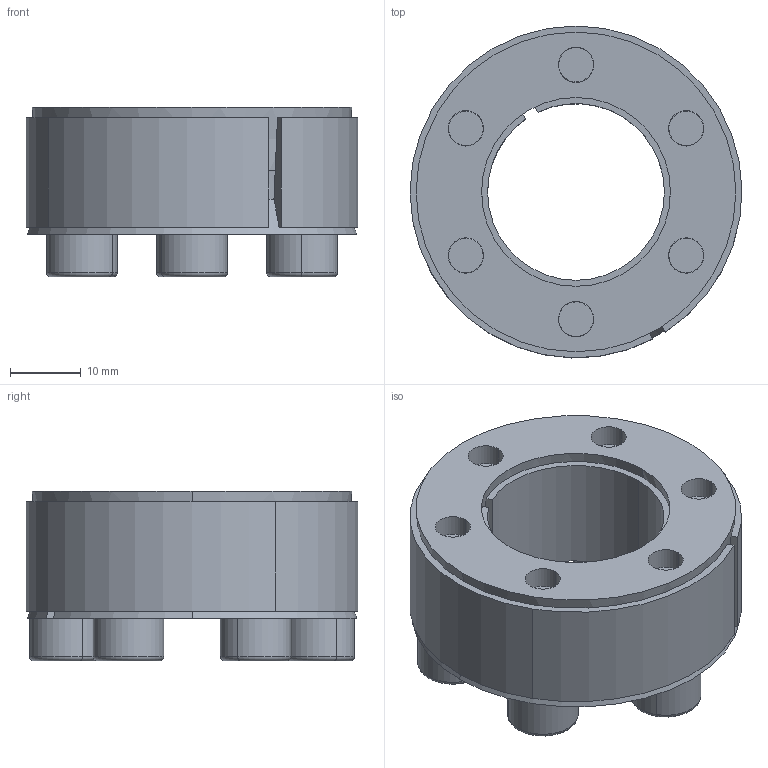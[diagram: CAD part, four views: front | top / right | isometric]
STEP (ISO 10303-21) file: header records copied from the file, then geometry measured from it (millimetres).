
FILE_DESCRIPTION (( 'STEP AP214' ), '1' );
FILE_NAME ('CONEX-L-25x47.step', '2013-04-06T13:22:27', ( 'Pc' ), ( '' ), 'SwSTEP 2.0', 'SolidWorks 2013', '' );
FILE_SCHEMA (( 'AUTOMOTIVE_DESIGN' ));
Length unit declared in the file: millimetre
Products named in the file (1): CONEX-L-25x47
Bounding box: 46.98 x 46.97 x 24.01 mm (x, y, z)
Volume: 21130.1 mm3; surface area: 18723 mm2
Topology: 9 solids, 9 shells, 223 faces, 511 edges, 306 vertices
Faces by surface type: plane 101, cylinder 58, cone 40, torus 24
Entity records: 8830 total; most frequent: DIRECTION 1180, CARTESIAN_POINT 1062, ORIENTED_EDGE 998, EDGE_CURVE 499, AXIS2_PLACEMENT_3D 465, VERTEX_POINT 306, EDGE_LOOP 265, VECTOR 250
